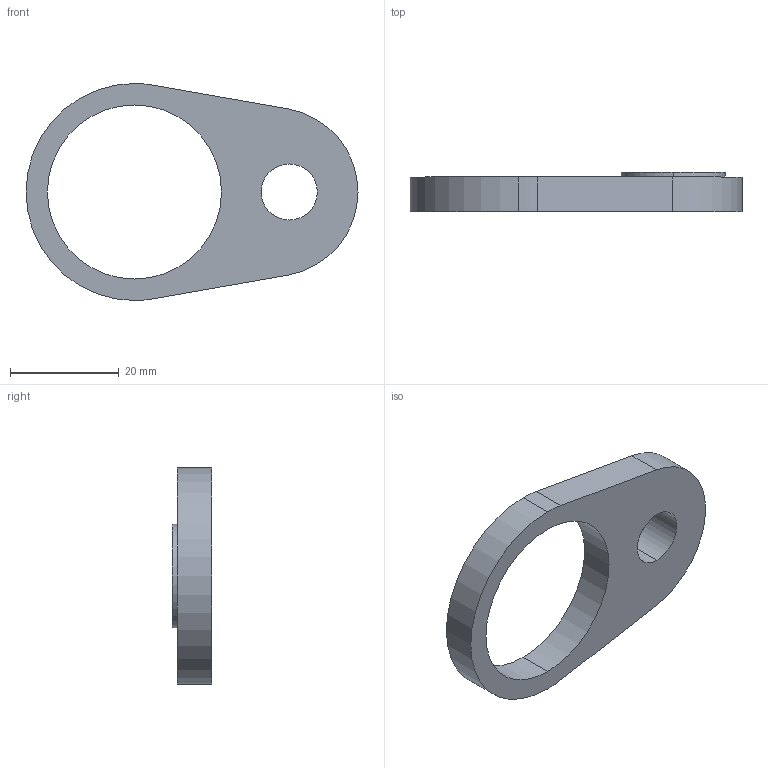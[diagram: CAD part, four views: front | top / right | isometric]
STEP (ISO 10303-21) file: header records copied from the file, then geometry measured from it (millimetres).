
FILE_DESCRIPTION (( 'STEP AP214' ), '1' );
FILE_NAME ('GasSpringClamp-B-32.stp', '2011-04-26T19:47:12', ( '' ), ( '' ), 'SwSTEP 2.0', 'SolidWorks 2010', '' );
FILE_SCHEMA (( 'AUTOMOTIVE_DESIGN' ));
Length unit declared in the file: inch
Products named in the file (1): GasSpringClamp-B-32
Bounding box: 61.03 x 7.24 x 39.88 mm (x, y, z)
Volume: 6748.4 mm3; surface area: 4032 mm2
Topology: 1 solids, 1 shells, 15 faces, 36 edges, 24 vertices
Faces by surface type: cylinder 10, plane 5
Entity records: 498 total; most frequent: DIRECTION 88, CARTESIAN_POINT 76, ORIENTED_EDGE 72, AXIS2_PLACEMENT_3D 36, EDGE_CURVE 36, VERTEX_POINT 24, CIRCLE 20, EDGE_LOOP 20
